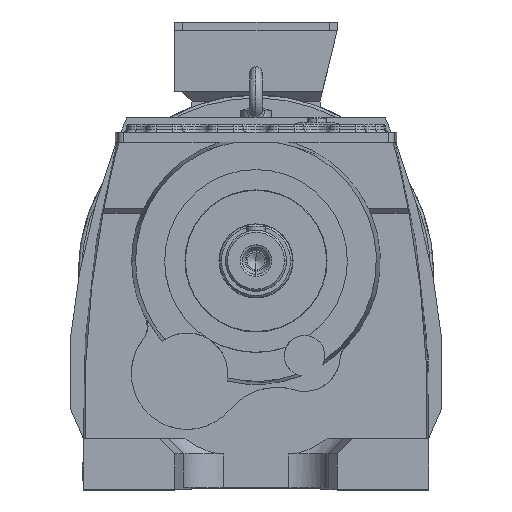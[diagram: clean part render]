
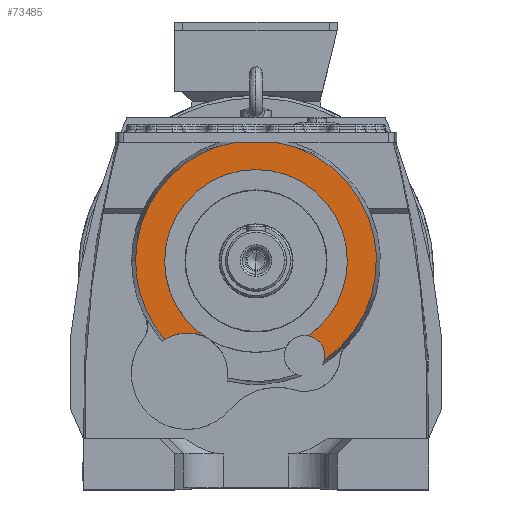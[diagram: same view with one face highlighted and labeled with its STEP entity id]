
A CAD part, top view. The second image highlights one B-rep face of the part: STEP entity #73485.
In plain terms, the highlighted planar face has unit normal (0, 0, 1).
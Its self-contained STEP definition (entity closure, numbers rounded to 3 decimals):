
#3998 = VERTEX_POINT ( 'NONE', #60079 ) ;
#4191 = VERTEX_POINT ( 'NONE', #87453 ) ;
#10751 = EDGE_CURVE ( 'NONE', #61337, #61458, #94303, .T. ) ;
#10754 = EDGE_CURVE ( 'NONE', #61447, #61417, #94350, .T. ) ;
#10773 = EDGE_CURVE ( 'NONE', #61593, #61363, #94333, .T. ) ;
#10782 = EDGE_CURVE ( 'NONE', #61363, #61460, #94378, .T. ) ;
#10785 = EDGE_CURVE ( 'NONE', #61272, #61447, #94429, .T. ) ;
#11457 = EDGE_CURVE ( 'NONE', #4191, #61417, #25032, .T. ) ;
#11468 = EDGE_CURVE ( 'NONE', #61458, #3998, #24996, .T. ) ;
#11476 = EDGE_CURVE ( 'NONE', #4191, #3998, #25016, .T. ) ;
#11477 = EDGE_CURVE ( 'NONE', #61337, #61593, #25007, .T. ) ;
#11695 = EDGE_CURVE ( 'NONE', #61460, #61272, #25286, .T. ) ;
#24996 = CIRCLE ( 'NONE', #85946, 118.622 ) ;
#25007 = CIRCLE ( 'NONE', #85955, 40. ) ;
#25016 = LINE ( 'NONE', #26571, #25017 ) ;
#25017 = VECTOR ( 'NONE', #26530, 1000. ) ;
#25032 = CIRCLE ( 'NONE', #85996, 118.622 ) ;
#25286 = CIRCLE ( 'NONE', #86095, 90. ) ;
#26329 = DIRECTION ( 'NONE',  ( 0., 0., -1. ) ) ;
#26335 = CARTESIAN_POINT ( 'NONE',  ( 0., 0., 204. ) ) ;
#26338 = DIRECTION ( 'NONE',  ( -1., 0., 0. ) ) ;
#26496 = DIRECTION ( 'NONE',  ( 0., 0., -1. ) ) ;
#26498 = CARTESIAN_POINT ( 'NONE',  ( 0., 0., 204. ) ) ;
#26510 = DIRECTION ( 'NONE',  ( -1., 0., 0. ) ) ;
#26528 = CARTESIAN_POINT ( 'NONE',  ( 0., 0., 204. ) ) ;
#26530 = DIRECTION ( 'NONE',  ( -1., 0., 0. ) ) ;
#26531 = CARTESIAN_POINT ( 'NONE',  ( -67.814, -110.911, 204. ) ) ;
#26532 = DIRECTION ( 'NONE',  ( -1., 0., 0. ) ) ;
#26548 = DIRECTION ( 'NONE',  ( 0., 0., -1. ) ) ;
#26556 = DIRECTION ( 'NONE',  ( 0., 0., -1. ) ) ;
#26570 = DIRECTION ( 'NONE',  ( -1., 0., 0. ) ) ;
#26571 = CARTESIAN_POINT ( 'NONE',  ( -137., 117., 204. ) ) ;
#38865 = AXIS2_PLACEMENT_3D ( 'NONE', #69834, #69821, #69836 ) ;
#46237 = FACE_OUTER_BOUND ( 'NONE', #84755, .T. ) ;
#60079 = CARTESIAN_POINT ( 'NONE',  ( -19.548, 117., 204. ) ) ;
#61272 = VERTEX_POINT ( 'NONE', #72817 ) ;
#61337 = VERTEX_POINT ( 'NONE', #72802 ) ;
#61363 = VERTEX_POINT ( 'NONE', #72734 ) ;
#61417 = VERTEX_POINT ( 'NONE', #72888 ) ;
#61447 = VERTEX_POINT ( 'NONE', #72878 ) ;
#61458 = VERTEX_POINT ( 'NONE', #72936 ) ;
#61460 = VERTEX_POINT ( 'NONE', #72906 ) ;
#61593 = VERTEX_POINT ( 'NONE', #73060 ) ;
#69800 = PLANE ( 'NONE',  #38865 ) ;
#69821 = DIRECTION ( 'NONE',  ( 0., 0., 1. ) ) ;
#69834 = CARTESIAN_POINT ( 'NONE',  ( 0., 0., 204. ) ) ;
#69836 = DIRECTION ( 'NONE',  ( 1., 0., 0. ) ) ;
#72734 = CARTESIAN_POINT ( 'NONE',  ( -90., 0., 204. ) ) ;
#72802 = CARTESIAN_POINT ( 'NONE',  ( -89.806, -77.499, 204. ) ) ;
#72817 = CARTESIAN_POINT ( 'NONE',  ( 51.649, -73.705, 204. ) ) ;
#72878 = CARTESIAN_POINT ( 'NONE',  ( 67.859, -93.342, 204. ) ) ;
#72888 = CARTESIAN_POINT ( 'NONE',  ( 67.397, -97.615, 204. ) ) ;
#72906 = CARTESIAN_POINT ( 'NONE',  ( 90., 0., 204. ) ) ;
#72936 = CARTESIAN_POINT ( 'NONE',  ( -118.622, 0., 204. ) ) ;
#73060 = CARTESIAN_POINT ( 'NONE',  ( -46.948, -76.784, 204. ) ) ;
#73485 = ADVANCED_FACE ( 'NONE', ( #46237 ), #69800, .T. ) ;
#82078 = ORIENTED_EDGE ( 'NONE', *, *, #11477, .T. ) ;
#82081 = ORIENTED_EDGE ( 'NONE', *, *, #11695, .T. ) ;
#82089 = ORIENTED_EDGE ( 'NONE', *, *, #11476, .T. ) ;
#82091 = ORIENTED_EDGE ( 'NONE', *, *, #10785, .T. ) ;
#82092 = ORIENTED_EDGE ( 'NONE', *, *, #10751, .F. ) ;
#82111 = ORIENTED_EDGE ( 'NONE', *, *, #10773, .T. ) ;
#82112 = ORIENTED_EDGE ( 'NONE', *, *, #11468, .F. ) ;
#82119 = ORIENTED_EDGE ( 'NONE', *, *, #10782, .T. ) ;
#82125 = ORIENTED_EDGE ( 'NONE', *, *, #10754, .T. ) ;
#82131 = ORIENTED_EDGE ( 'NONE', *, *, #11457, .F. ) ;
#84755 = EDGE_LOOP ( 'NONE', ( #82092, #82078, #82111, #82119, #82081, #82091, #82125, #82131, #82089, #82112 ) ) ;
#85654 = AXIS2_PLACEMENT_3D ( 'NONE', #100664, #100684, #100698 ) ;
#85669 = AXIS2_PLACEMENT_3D ( 'NONE', #100653, #100658, #100645 ) ;
#85674 = AXIS2_PLACEMENT_3D ( 'NONE', #98388, #98391, #98302 ) ;
#85676 = AXIS2_PLACEMENT_3D ( 'NONE', #100662, #100663, #100644 ) ;
#85752 = AXIS2_PLACEMENT_3D ( 'NONE', #98500, #98468, #98474 ) ;
#85946 = AXIS2_PLACEMENT_3D ( 'NONE', #26528, #26548, #26570 ) ;
#85955 = AXIS2_PLACEMENT_3D ( 'NONE', #26531, #26556, #26532 ) ;
#85996 = AXIS2_PLACEMENT_3D ( 'NONE', #26498, #26496, #26510 ) ;
#86095 = AXIS2_PLACEMENT_3D ( 'NONE', #26335, #26329, #26338 ) ;
#87453 = CARTESIAN_POINT ( 'NONE',  ( 19.548, 117., 204. ) ) ;
#94303 = CIRCLE ( 'NONE', #85674, 118.622 ) ;
#94333 = CIRCLE ( 'NONE', #85669, 90. ) ;
#94350 = CIRCLE ( 'NONE', #85752, 20. ) ;
#94378 = CIRCLE ( 'NONE', #85676, 90. ) ;
#94429 = CIRCLE ( 'NONE', #85654, 20. ) ;
#98302 = DIRECTION ( 'NONE',  ( -1., 0., 0. ) ) ;
#98388 = CARTESIAN_POINT ( 'NONE',  ( 0., 0., 204. ) ) ;
#98391 = DIRECTION ( 'NONE',  ( 0., 0., -1. ) ) ;
#98468 = DIRECTION ( 'NONE',  ( 0., 0., -1. ) ) ;
#98474 = DIRECTION ( 'NONE',  ( -1., 0., 0. ) ) ;
#98500 = CARTESIAN_POINT ( 'NONE',  ( 47.859, -93.342, 204. ) ) ;
#100644 = DIRECTION ( 'NONE',  ( -1., 0., 0. ) ) ;
#100645 = DIRECTION ( 'NONE',  ( -1., 0., 0. ) ) ;
#100653 = CARTESIAN_POINT ( 'NONE',  ( 0., 0., 204. ) ) ;
#100658 = DIRECTION ( 'NONE',  ( 0., 0., -1. ) ) ;
#100662 = CARTESIAN_POINT ( 'NONE',  ( 0., 0., 204. ) ) ;
#100663 = DIRECTION ( 'NONE',  ( 0., 0., -1. ) ) ;
#100664 = CARTESIAN_POINT ( 'NONE',  ( 47.859, -93.342, 204. ) ) ;
#100684 = DIRECTION ( 'NONE',  ( 0., 0., -1. ) ) ;
#100698 = DIRECTION ( 'NONE',  ( -1., 0., 0. ) ) ;
